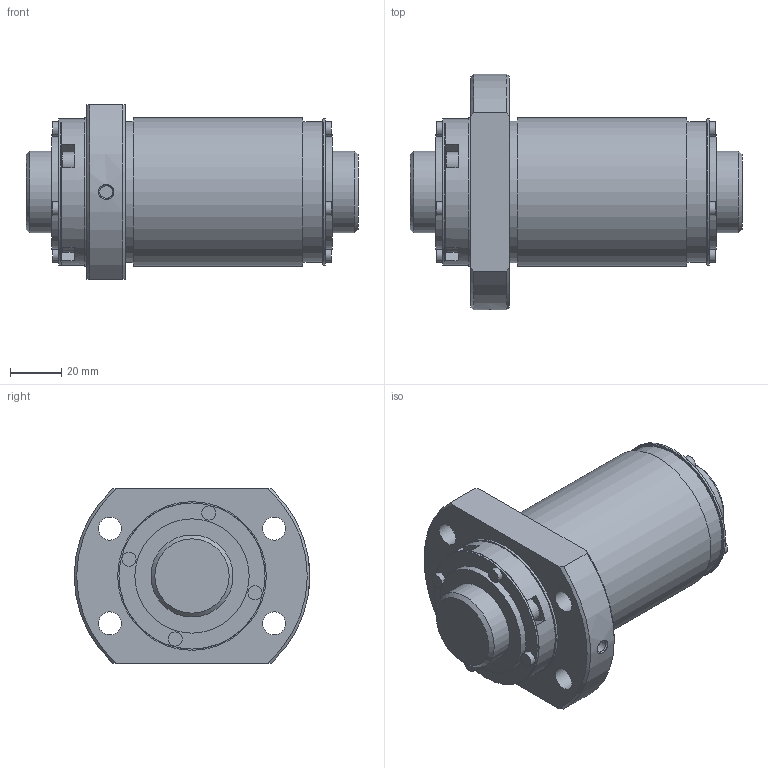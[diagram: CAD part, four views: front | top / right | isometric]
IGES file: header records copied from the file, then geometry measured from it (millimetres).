
Start section: Data from Parasolid IGES Translator 26.0.171, Copyright(c) 2006 Siemens PLM Software. All Rights Reserved.
Global section: file name: BLK3232-2.8ZZG1+129.6LC3_N0_1300.igs; native system: By Siemens PLM Incorporated; preprocessor: XPlus GENERIC/IGES 26.0.171; author: Noname; organization: Noname; date: 20250116.070454; units: millimetre
Bounding box: 129.6 x 92 x 68 mm (x, y, z)
Surface area: 60832.9 mm2 (no closed solid volume)
Topology: 0 solids, 0 shells, 156 faces, 692 edges, 618 vertices
Faces by surface type: extrusion 95, revolution 61
